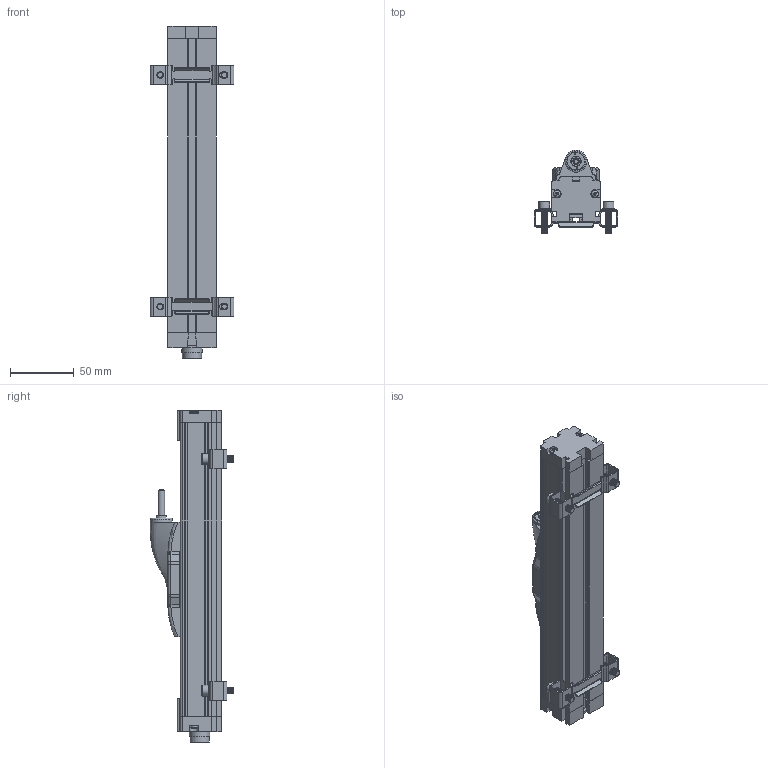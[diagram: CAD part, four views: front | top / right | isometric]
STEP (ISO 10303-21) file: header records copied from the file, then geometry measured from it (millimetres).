
FILE_DESCRIPTION (( 'STEP AP214' ), '1' );
FILE_NAME ('MSL38 100 SteckerVentilSt DIN43650ToDo.STEP', '2017-05-30T08:08:01', ( '' ), ( '' ), 'SwSTEP 2.0', 'SolidWorks 2017', '' );
FILE_SCHEMA (( 'AUTOMOTIVE_DESIGN' ));
Length unit declared in the file: millimetre
Products named in the file (37): MIM897X_ISO 4762 M5 x 20 --- 20S; ALB108X_REVISIONE 1; ANE030X; CUS062X; STA018X; MP497-PK100X; MIM862X_MIM862; PCOP006X_REVISIONE 0; TES135X; MP207X_PKV2 100; CON010X; TES139X; MIM509X_MIM509; MSL38 100 SteckerVentilSt DIN43650ToDo
Assembly tree (23 placements, depth 2):
  MIM897X_ISO 4762 M5 x 20 --- 20S
  MIM897X_ISO 4762 M5 x 20 --- 20S
  ALB108X_REVISIONE 1
  ANE030X
  CUS062X
Bounding box: 66 x 65.6 x 261 mm (x, y, z)
Volume: 326984.6 mm3; surface area: 94916 mm2
Topology: 22 solids, 28 shells, 1308 faces, 3072 edges, 1820 vertices
Faces by surface type: plane 475, cone 409, cylinder 358, bspline 27, torus 25, sphere 14
Full cylindrical faces by diameter (mm): 1.3 x2, 1.6 x5, 2.5 x2, 2.6 x2, 2.75 x2, 3 x92, 3.264 x1, 3.3 x4, 5 x95, 5.3 x2, 5.6 x4, 8.1 x1, 8.5 x4, 12 x1, 14 x1, 14.3 x1, 15 x1, 16 x1, 17.4 x1, 18 x1, 20 x2
Entity records: 20510 total; most frequent: CARTESIAN_POINT 5532, DIRECTION 2969, ORIENTED_EDGE 2671, EDGE_CURVE 1339, AXIS2_PLACEMENT_3D 1078, VERTEX_POINT 951, EDGE_LOOP 855, LINE 813
